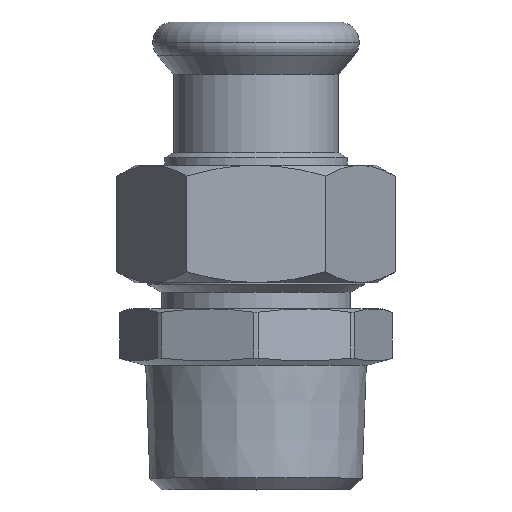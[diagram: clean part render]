
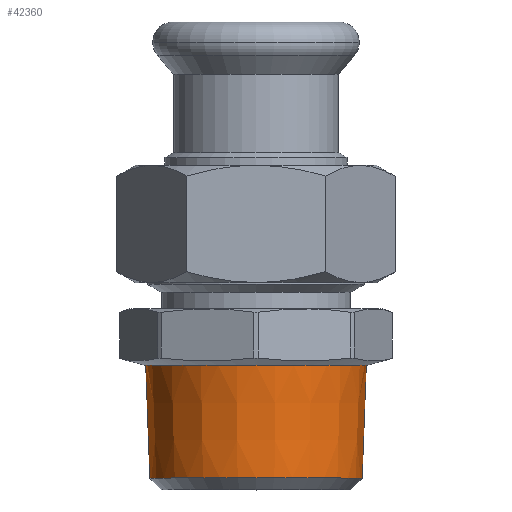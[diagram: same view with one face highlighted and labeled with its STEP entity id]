
A CAD part, top view. The second image highlights one B-rep face of the part: STEP entity #42360.
In plain terms, the highlighted conical face has half-angle 2.088 degrees and reference radius 16.931 mm.
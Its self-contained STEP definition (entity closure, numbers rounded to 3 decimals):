
#39160=CARTESIAN_POINT('',(-336.222,12.235,
0.));
#39170=VERTEX_POINT('',#39160);
#41910=CARTESIAN_POINT('',(-302.36,12.235,0.));
#41920=VERTEX_POINT('',#41910);
#41950=CARTESIAN_POINT('',(-319.291,12.235,0.));
#41960=DIRECTION('',(0.,1.,0.));
#41970=DIRECTION('',(1.,0.,0.));
#41980=AXIS2_PLACEMENT_3D('',#41950,#41960,#41970);
#41990=CIRCLE('',#41980,16.931);
#42000=EDGE_CURVE('',#39170,#41920,#41990,.T.);
#42050=CARTESIAN_POINT('',(-319.291,12.235,0.));
#42060=DIRECTION('',(0.,1.,0.));
#42070=DIRECTION('',(1.,0.,0.));
#42080=AXIS2_PLACEMENT_3D('',#42050,#42060,#42070);
#42090=CONICAL_SURFACE('',#42080,16.931,0.036);
#42100=CARTESIAN_POINT('',(-336.222,12.235,
0.));
#42110=DIRECTION('',(-0.036,0.999,
0.));
#42120=VECTOR('',#42110,1.);
#42130=LINE('',#42100,#42120);
#42140=CARTESIAN_POINT('',(-335.591,-5.065,
0.));
#42150=VERTEX_POINT('',#42140);
#42160=EDGE_CURVE('',#42150,#39170,#42130,.T.);
#42170=ORIENTED_EDGE('',*,*,#42160,.F.);
#42180=ORIENTED_EDGE('',*,*,#42000,.F.);
#42190=CARTESIAN_POINT('',(-302.36,12.235,0.));
#42200=DIRECTION('',(0.036,0.999,0.));
#42210=VECTOR('',#42200,1.);
#42220=LINE('',#42190,#42210);
#42230=CARTESIAN_POINT('',(-302.991,-5.065,0.));
#42240=VERTEX_POINT('',#42230);
#42250=EDGE_CURVE('',#42240,#41920,#42220,.T.);
#42260=ORIENTED_EDGE('',*,*,#42250,.T.);
#42270=CARTESIAN_POINT('',(-319.291,-5.065,0.));
#42280=DIRECTION('',(0.,1.,0.));
#42290=DIRECTION('',(1.,0.,0.));
#42300=AXIS2_PLACEMENT_3D('',#42270,#42280,#42290);
#42310=CIRCLE('',#42300,16.3);
#42320=EDGE_CURVE('',#42150,#42240,#42310,.T.);
#42330=ORIENTED_EDGE('',*,*,#42320,.T.);
#42340=EDGE_LOOP('',(#42330,#42260,#42180,#42170));
#42350=FACE_OUTER_BOUND('',#42340,.T.);
#42360=ADVANCED_FACE('',(#42350),#42090,.T.);
